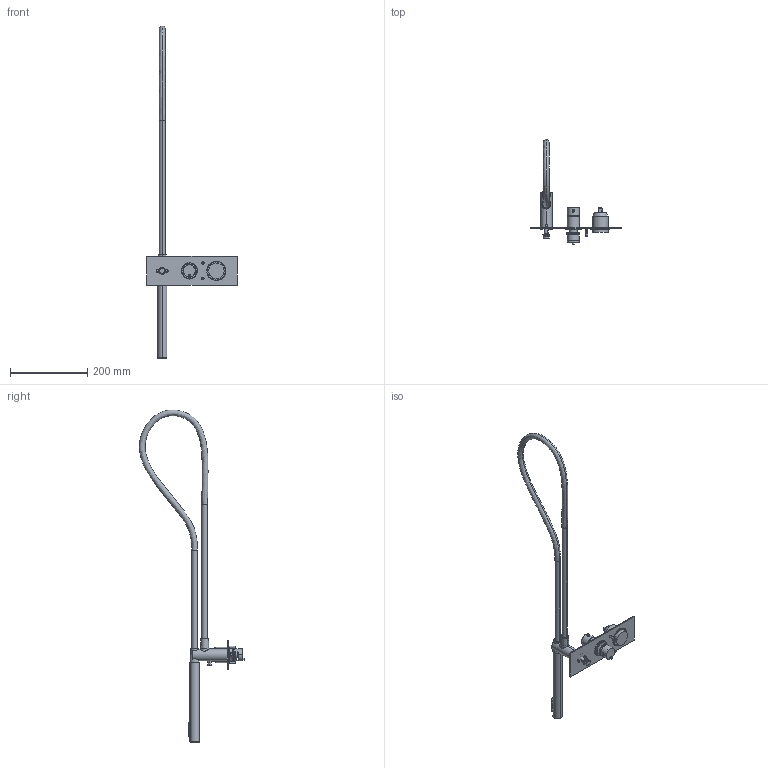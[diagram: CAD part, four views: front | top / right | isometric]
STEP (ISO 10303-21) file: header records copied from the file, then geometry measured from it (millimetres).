
FILE_DESCRIPTION((''),'2;1');
FILE_NAME('69529SV221_SW0001','2023-06-06T10:02:37',('volponeff'),(''),'CREO PARAMETRIC BY PTC INC, 2022014','CREO PARAMETRIC BY PTC INC, 2022014','');
FILE_SCHEMA(('CONFIG_CONTROL_DESIGN'));
Length unit declared in the file: millimetre
Products named in the file (1): 69529SV221_SW0001
Bounding box: 235 x 272.38 x 859.65 mm (x, y, z)
Surface area: 165500 mm2 (no closed solid volume)
Topology: 0 solids, 72 shells, 353 faces, 977 edges, 678 vertices
Faces by surface type: cylinder 127, plane 103, torus 95, cone 22, bspline 4, sphere 2
Entity records: 12468 total; most frequent: CARTESIAN_POINT 3327, DIRECTION 2204, ORIENTED_EDGE 1566, EDGE_CURVE 975, AXIS2_PLACEMENT_3D 933, VERTEX_POINT 678, CIRCLE 584, EDGE_LOOP 353
